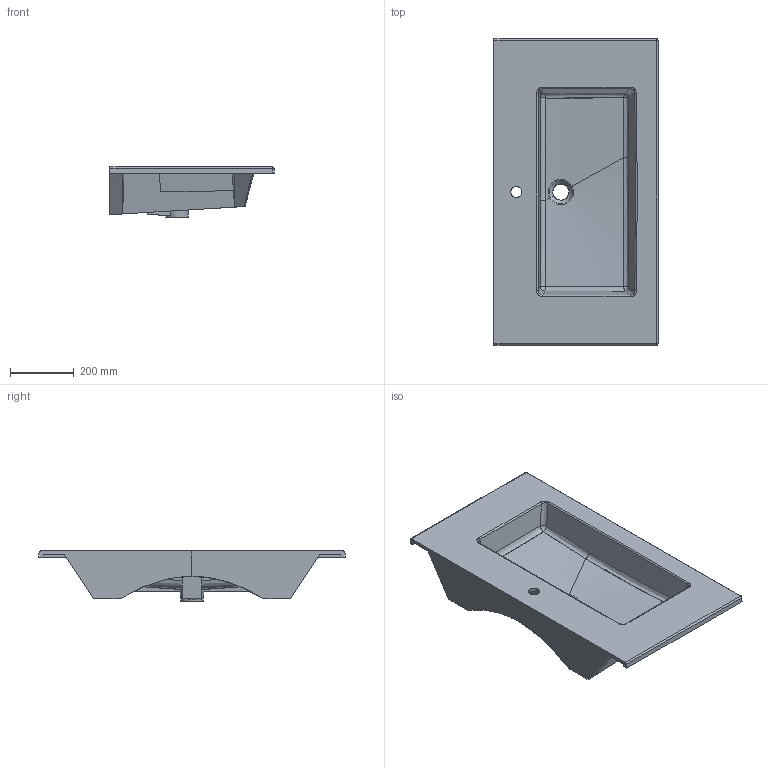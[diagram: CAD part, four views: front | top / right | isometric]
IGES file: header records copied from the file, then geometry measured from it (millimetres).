
Start section: START RECORD GO HERE.
Global section: file name: 2032_Lav PLUS 96.igs; native system: DASSAULT SYSTEMES CATIA V5 R19 - www.3ds.com; preprocessor: CATIA Version 5 Release 19 SP 5 ; author: gioge; organization: LAPTOP-G94B6G74; date: 20200622.115024; units: millimetre
Bounding box: 515 x 962.1 x 157.4 mm (x, y, z)
Surface area: 1576342.5 mm2 (no closed solid volume)
Topology: 0 solids, 0 shells, 113 faces, 593 edges, 585 vertices
Faces by surface type: bspline 60, revolution 28, plane 24, extrusion 1
